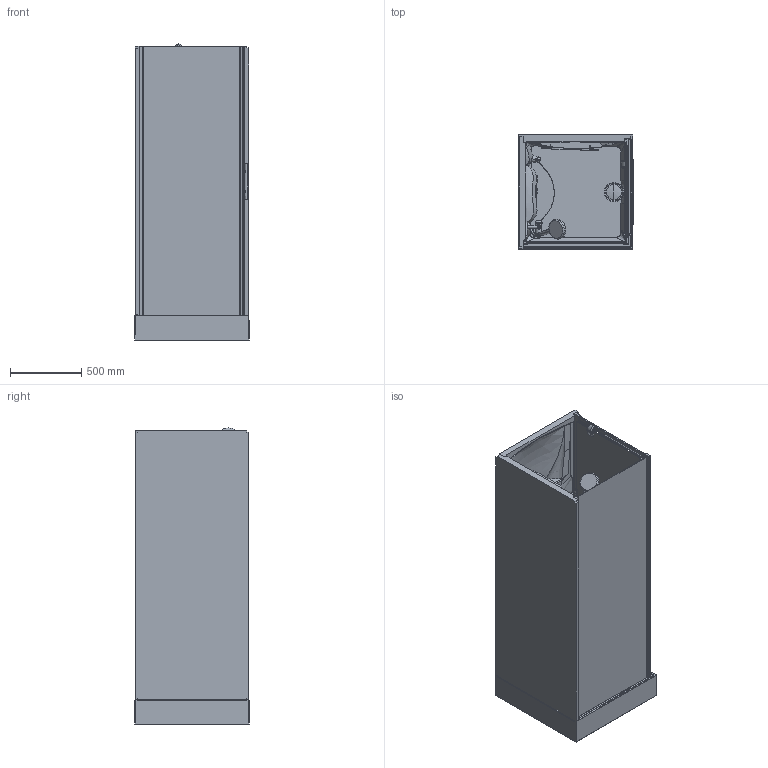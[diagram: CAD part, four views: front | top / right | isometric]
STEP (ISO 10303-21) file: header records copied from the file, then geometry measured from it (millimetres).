
FILE_DESCRIPTION(('STEP AP203'),'2;1');
FILE_NAME('NNH GF 80 T.stp','2015-09-04T15:38:38',(''),(''),'2014.1.117','THINKDESIGN','');
FILE_SCHEMA(('CONFIG_CONTROL_DESIGN'));
Length unit declared in the file: millimetre
Products named in the file (1): top
Bounding box: 807.53 x 804.03 x 2080.01 mm (x, y, z)
Volume: 174496502.5 mm3; surface area: 16266952.5 mm2
Topology: 28 solids, 28 shells, 622 faces, 1559 edges, 991 vertices
Faces by surface type: bspline 343, plane 210, cylinder 69
Entity records: 70094 total; most frequent: CARTESIAN_POINT 57652, ORIENTED_EDGE 3088, DIRECTION 1563, EDGE_CURVE 1544, VERTEX_POINT 991, VECTOR 675, LINE 675, EDGE_LOOP 637
